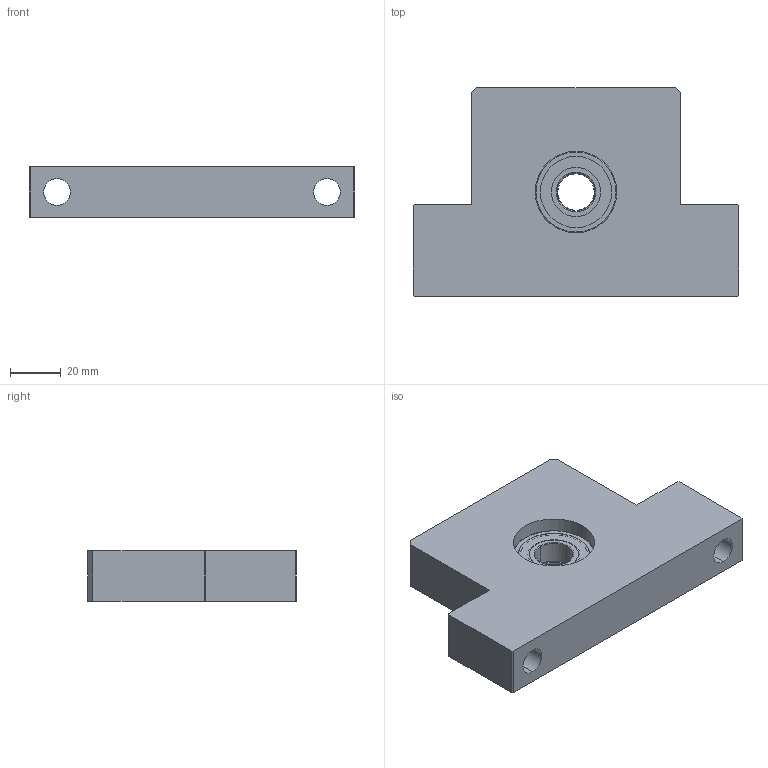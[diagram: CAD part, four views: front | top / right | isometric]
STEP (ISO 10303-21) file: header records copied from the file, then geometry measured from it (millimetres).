
FILE_DESCRIPTION (( 'STEP AP214' ), '1' );
FILE_NAME ('F-SBU-15.80.STEP', '2023-04-10T09:12:38', ( '' ), ( '' ), 'SwSTEP 2.0', 'SolidWorks 2021', '' );
FILE_SCHEMA (( 'AUTOMOTIVE_DESIGN' ));
Length unit declared in the file: millimetre
Products named in the file (9): F-SBU-15.80; 6002ZZ Shield1; 6002ZZ Outer ring; 6002ZZ Ball; STWN15; 6002ZZ Inner ring; 6002ZZ; 6002ZZ Shield2; F-SBU-15.80 BODY
Assembly tree (20 placements, depth 3):
  F-SBU-15.80
    F-SBU-15.80 BODY
    6002ZZ
      6002ZZ Shield2
      6002ZZ Ball  x13
      6002ZZ Inner ring
      6002ZZ Shield1
      6002ZZ Outer ring
    STWN15
Bounding box: 128 x 82 x 20 mm (x, y, z)
Volume: 149384.4 mm3; surface area: 33432.1 mm2
Topology: 19 solids, 19 shells, 121 faces, 310 edges, 205 vertices
Faces by surface type: cylinder 45, plane 36, sphere 26, torus 14
Entity records: 3251 total; most frequent: DIRECTION 579, CARTESIAN_POINT 484, ORIENTED_EDGE 442, AXIS2_PLACEMENT_3D 237, EDGE_CURVE 221, VERTEX_POINT 142, EDGE_LOOP 119, CIRCLE 116
